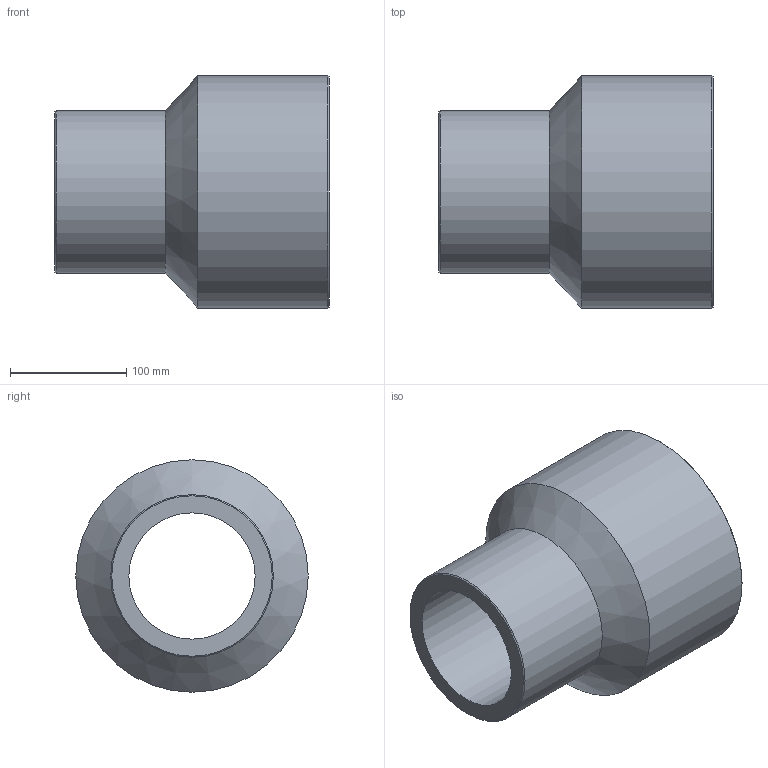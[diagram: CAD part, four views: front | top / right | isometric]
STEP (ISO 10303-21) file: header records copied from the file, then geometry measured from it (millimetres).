
FILE_DESCRIPTION(/* description */ ('Unknown'),/* implementation_level */ '2;1');
FILE_NAME(/* name */ 'RP200140G',/* time_stamp */ '2021-09-16T17:10:18+02:00',/* author */ ('Unknown'),/* organization */ ('Unknown'),/* preprocessor_version */ 'ST-DEVELOPER v16.7',/* originating_system */ 'Solid Edge',/* authorisation */ 'Unknown');
FILE_SCHEMA (('AUTOMOTIVE_DESIGN {1 0 10303 214 3 1 1}'));
Length unit declared in the file: millimetre
Products named in the file (1): RP200140G
Bounding box: 236 x 200 x 200 mm (x, y, z)
Volume: 2356515.4 mm3; surface area: 253509.1 mm2
Topology: 1 solids, 1 shells, 10 faces, 19 edges, 11 vertices
Faces by surface type: cylinder 4, cone 4, plane 2
Full cylindrical faces by diameter (mm): 108.6 x1, 140 x1, 155.2 x1, 200 x1
Entity records: 238 total; most frequent: DIRECTION 42, CARTESIAN_POINT 31, AXIS2_PLACEMENT_3D 21, ORIENTED_EDGE 20, EDGE_LOOP 20, FACE_BOUND 20, EDGE_CURVE 10, VERTEX_POINT 10
